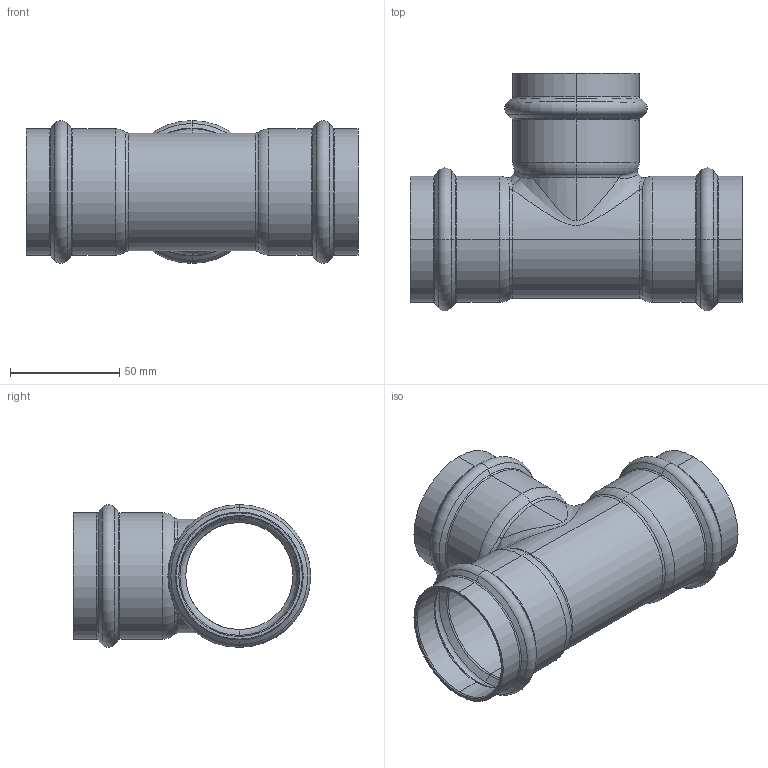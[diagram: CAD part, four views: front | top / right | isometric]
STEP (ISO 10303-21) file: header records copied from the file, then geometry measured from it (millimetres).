
FILE_DESCRIPTION (( 'STEP AP203' ), '1' );
FILE_NAME ('SP5130 Ø54.STEP', '2017-04-25T15:06:39', ( '' ), ( '' ), 'SwSTEP 2.0', 'SolidWorks 2016', '' );
FILE_SCHEMA (( 'CONFIG_CONTROL_DESIGN' ));
Length unit declared in the file: millimetre
Products named in the file (1): SP5130 ﾘ54
Bounding box: 152 x 108.7 x 65.4 mm (x, y, z)
Volume: 67800 mm3; surface area: 72415.1 mm2
Topology: 1 solids, 1 shells, 132 faces, 276 edges, 146 vertices
Faces by surface type: torus 57, cylinder 34, cone 30, bspline 8, plane 3
Entity records: 5642 total; most frequent: CARTESIAN_POINT 2710, DIRECTION 695, ORIENTED_EDGE 552, AXIS2_PLACEMENT_3D 317, EDGE_CURVE 276, CIRCLE 192, VERTEX_POINT 146, EDGE_LOOP 136
